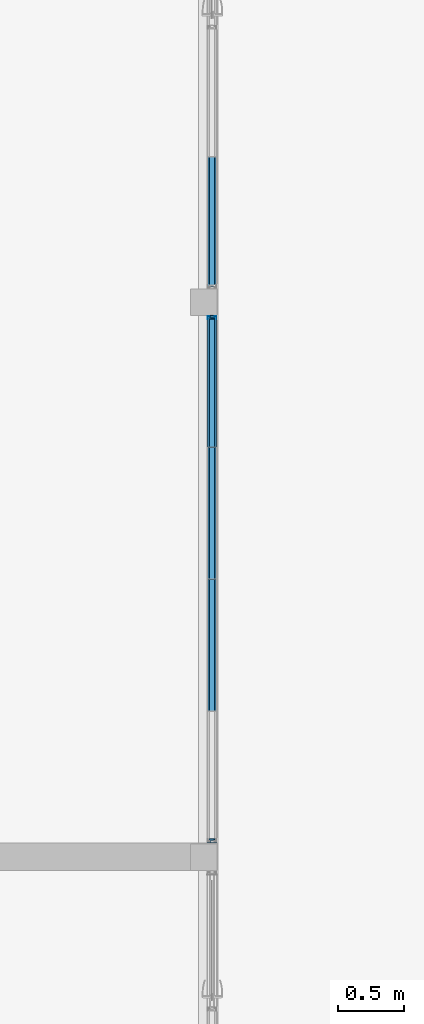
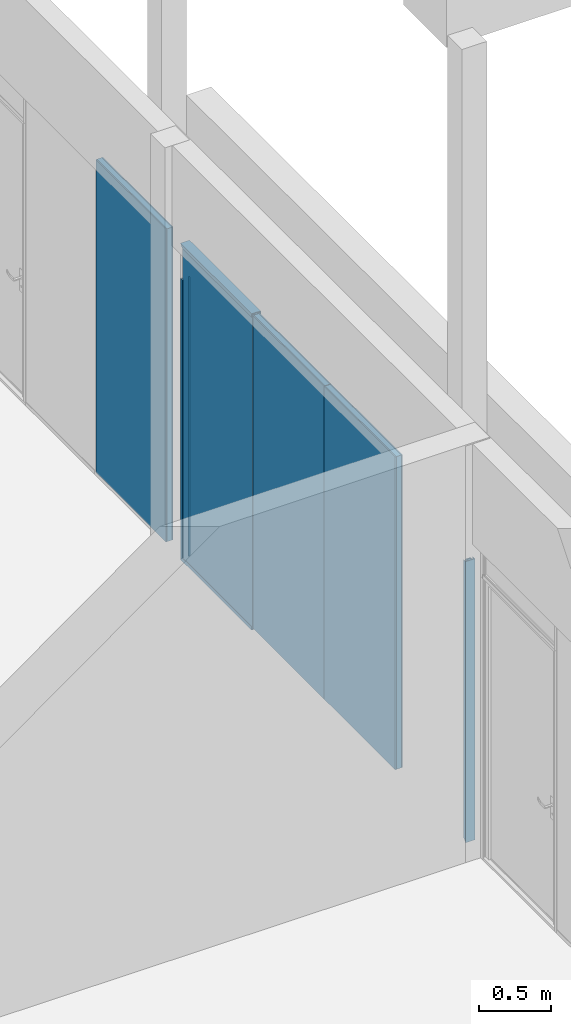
# One storey, part 33 of 65: 13 building element parts, 10 elements without a shape of their own.
"""IFC2X3 building model written with IfcOpenShell, lengths in millimetres."""

from ifc_helpers import new_model, entity, si_unit, converted_unit, derived_unit, money_unit, direction, frame, origin_with_axes, place, context, subcontext, project, spatial, faceted_brep, material, type_object, element, aggregate, save


model = new_model("IFC2X3")

# Units and contexts
model_context = context("Model", 3, precision=0.01, world=origin_with_axes(), true_north=direction((0.0, 1.0)))
body_context = subcontext(model_context, "Body", "Model", "MODEL_VIEW")
ifc_project = project(units=[si_unit("LENGTHUNIT", "METRE", prefix="MILLI"), si_unit("AREAUNIT", "SQUARE_METRE"), si_unit("VOLUMEUNIT", "CUBIC_METRE"), converted_unit("PLANEANGLEUNIT", "DEGREE", entity("IfcPlaneAngleMeasure", 0.0174532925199), si_unit("PLANEANGLEUNIT", "RADIAN"), dimensions=[0, 0, 0, 0, 0, 0, 0]), si_unit("SOLIDANGLEUNIT", "STERADIAN"), money_unit("EUR"), converted_unit("TIMEUNIT", "Year", entity("IfcTimeMeasure", 31556926.0), si_unit("TIMEUNIT", "SECOND"), dimensions=[0, 0, 1, 0, 0, 0, 0]), si_unit("MASSUNIT", "GRAM", prefix="KILO"), si_unit("THERMODYNAMICTEMPERATUREUNIT", "DEGREE_CELSIUS"), si_unit("LUMINOUSINTENSITYUNIT", "LUMEN"), si_unit("ENERGYUNIT", "JOULE", prefix="MEGA"), derived_unit("THERMALCONDUCTANCEUNIT", [(si_unit("POWERUNIT", "WATT"), 1), (si_unit("LENGTHUNIT", "METRE"), -1), (si_unit("THERMODYNAMICTEMPERATUREUNIT", "KELVIN"), -1)]), derived_unit("SPECIFICHEATCAPACITYUNIT", [(si_unit("ENERGYUNIT", "JOULE"), 1), (si_unit("MASSUNIT", "GRAM", prefix="KILO"), -1), (si_unit("THERMODYNAMICTEMPERATUREUNIT", "KELVIN"), -1)]), derived_unit("MASSDENSITYUNIT", [(si_unit("MASSUNIT", "GRAM", prefix="KILO"), 1), (si_unit("VOLUMEUNIT", "CUBIC_METRE"), -1)])], contexts=[model_context])

# Site, building, storey
site_placement = place(None, origin_with_axes())
site = spatial("IfcSite", under=ifc_project, at=site_placement, Name="Puškini 31, Narva", CompositionType="ELEMENT")
building_placement = place(site_placement, origin_with_axes())
building = spatial("IfcBuilding", under=site, at=building_placement, Name="Narva Riigigümnaasium", CompositionType="ELEMENT")
storey_placement = place(building_placement, frame((0.0, 0.0, -1320.0), z_axis=(0.0, 0.0, 1.0), x_axis=(1.0, 0.0, 0.0)))
storey = spatial("IfcBuildingStorey", under=building, at=storey_placement, Name="1.korrus -1.32", CompositionType="ELEMENT", Elevation=-1320.0)

# Curtain wall, plates, building element parts, members
curtain_wall_type = type_object("IfcCurtainWallType", Name="Curtain Wall Type", PredefinedType="NOTDEFINED")
curtain_wall_1_placement = place(storey_placement, frame((30362.9999988, 168706.249936, -1.99739158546e-06), z_axis=(0.0, 0.0, 1.0), x_axis=(1.0, 0.0, 0.0)))
curtain_wall_1 = element("IfcCurtainWall", 1, at=curtain_wall_1_placement, inside=storey, type_object=curtain_wall_type, Name="G-SKLF-05")
plate_type_1 = type_object("IfcPlateType", Name="Siseklaasfassaad - Klaas 994 x 285 x 10", PredefinedType="CURTAIN_PANEL")
plate_1_placement = place(curtain_wall_1_placement, frame((0.0, 0.0, 1700.00003085), z_axis=(0.0, 0.0, 1.0), x_axis=(0.0, -1.0, 0.0)))
plate_1 = element("IfcPlate", 2, at=plate_1_placement, type_object=plate_type_1, Name="G-SKLF-05-klaas", ObjectType="CURTAIN_PANEL")
ifc_material_1 = material(Name="VKR-05_Klaas")
building_element_part_1_placement = place(plate_1_placement, origin_with_axes())
building_element_part_1 = element("IfcBuildingElementPart", 3, at=building_element_part_1_placement, material=ifc_material_1, Name="VKR-05_Klaas", context=body_context, shape_type="Brep", body=[
    faceted_brep([(-497.250006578, 29.0, 985.000045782), (-497.250006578, 20.0, 985.000045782), (497.249986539, 20.0, 985.000045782), (497.249986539, 29.0, 985.000045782), (-497.250006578, 29.0, -1685.00001693), (-497.250006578, 20.0, -1685.00001693), (497.249986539, 20.0, -1685.00001693), (497.249986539, 29.0, -1685.00001693)], [[[0, 1, 2, 3]], [[4, 5, 1, 0]], [[1, 5, 6, 2]], [[3, 2, 6, 7]], [[0, 3, 7, 4]], [[7, 6, 5, 4]]]),
    faceted_brep([(-497.250006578, -20.0, 985.000045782), (-497.250006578, -29.0, 985.000045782), (497.249986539, -29.0, 985.000045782), (497.249986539, -20.0, 985.000045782), (-497.250006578, -20.0, -1685.00001693), (-497.250006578, -29.0, -1685.00001693), (497.249986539, -29.0, -1685.00001693), (497.249986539, -20.0, -1685.00001693)], [[[0, 1, 2, 3]], [[4, 5, 1, 0]], [[1, 5, 6, 2]], [[3, 2, 6, 7]], [[0, 3, 7, 4]], [[7, 6, 5, 4]]]),
])
ifc_material_2 = material(Name="VKR-06_Õhkvahe")
building_element_part_2_placement = place(plate_1_placement, origin_with_axes())
building_element_part_2 = element("IfcBuildingElementPart", 4, at=building_element_part_2_placement, material=ifc_material_2, Name="VKR-06_Õhkvahe", context=body_context, shape_type="Brep", body=[
    faceted_brep([(-497.250006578, 20.0, 985.000045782), (-497.250006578, -20.0, 985.000045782), (497.249986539, -20.0, 985.000045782), (497.249986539, 20.0, 985.000045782), (-497.250006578, 20.0, -1685.00001693), (-497.250006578, -20.0, -1685.00001693), (497.249986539, -20.0, -1685.00001693), (497.249986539, 20.0, -1685.00001693)], [[[0, 1, 2, 3]], [[4, 5, 1, 0]], [[1, 5, 6, 2]], [[3, 2, 6, 7]], [[0, 3, 7, 4]], [[7, 6, 5, 4]]]),
])
aggregate(plate_1, [building_element_part_1, building_element_part_2])
plate_2_placement = place(curtain_wall_1_placement, frame((0.0, 997.5, 1700.00003085), z_axis=(0.0, 0.0, 1.0), x_axis=(0.0, -1.0, 0.0)))
plate_2 = element("IfcPlate", 5, at=plate_2_placement, type_object=plate_type_1, Name="G-SKLF-05-klaas", ObjectType="CURTAIN_PANEL")
building_element_part_3_placement = place(plate_2_placement, origin_with_axes())
building_element_part_3 = element("IfcBuildingElementPart", 6, at=building_element_part_3_placement, material=ifc_material_1, Name="VKR-05_Klaas", context=body_context, shape_type="Brep", body=[
    faceted_brep([(-497.250006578, 29.0, 985.000045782), (-497.250006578, 20.0, 985.000045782), (497.249986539, 20.0, 985.000045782), (497.249986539, 29.0, 985.000045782), (-497.250006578, 29.0, -1685.00001693), (-497.250006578, 20.0, -1685.00001693), (497.249986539, 20.0, -1685.00001693), (497.249986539, 29.0, -1685.00001693)], [[[0, 1, 2, 3]], [[4, 5, 1, 0]], [[1, 5, 6, 2]], [[3, 2, 6, 7]], [[0, 3, 7, 4]], [[7, 6, 5, 4]]]),
    faceted_brep([(-497.250006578, -20.0, 985.000045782), (-497.250006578, -29.0, 985.000045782), (497.249986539, -29.0, 985.000045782), (497.249986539, -20.0, 985.000045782), (-497.250006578, -20.0, -1685.00001693), (-497.250006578, -29.0, -1685.00001693), (497.249986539, -29.0, -1685.00001693), (497.249986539, -20.0, -1685.00001693)], [[[0, 1, 2, 3]], [[4, 5, 1, 0]], [[1, 5, 6, 2]], [[3, 2, 6, 7]], [[0, 3, 7, 4]], [[7, 6, 5, 4]]]),
])
building_element_part_4_placement = place(plate_2_placement, origin_with_axes())
building_element_part_4 = element("IfcBuildingElementPart", 7, at=building_element_part_4_placement, material=ifc_material_2, Name="VKR-06_Õhkvahe", context=body_context, shape_type="Brep", body=[
    faceted_brep([(-497.250006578, 20.0, 985.000045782), (-497.250006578, -20.0, 985.000045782), (497.249986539, -20.0, 985.000045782), (497.249986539, 20.0, 985.000045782), (-497.250006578, 20.0, -1685.00001693), (-497.250006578, -20.0, -1685.00001693), (497.249986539, -20.0, -1685.00001693), (497.249986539, 20.0, -1685.00001693)], [[[0, 1, 2, 3]], [[4, 5, 1, 0]], [[1, 5, 6, 2]], [[3, 2, 6, 7]], [[0, 3, 7, 4]], [[7, 6, 5, 4]]]),
])
aggregate(plate_2, [building_element_part_3, building_element_part_4])
plate_type_2 = type_object("IfcPlateType", Name="Siseklaasfassaad - Klaas 981 x 285 x 10", PredefinedType="CURTAIN_PANEL")
plate_3_placement = place(curtain_wall_1_placement, frame((0.0, 1995.00004499, 1700.00003085), z_axis=(0.0, 0.0, 1.0), x_axis=(0.0, -1.0, 0.0)))
plate_3 = element("IfcPlate", 8, at=plate_3_placement, type_object=plate_type_2, Name="G-SKLF-05-klaas", ObjectType="CURTAIN_PANEL")
building_element_part_5_placement = place(plate_3_placement, origin_with_axes())
building_element_part_5 = element("IfcBuildingElementPart", 9, at=building_element_part_5_placement, material=ifc_material_1, Name="VKR-05_Klaas", context=body_context, shape_type="Brep", body=[
    faceted_brep([(-483.750041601, 29.0, 985.000045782), (-483.750041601, 20.0, 985.000045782), (497.250031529, 20.0, 985.000045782), (497.250031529, 29.0, 985.000045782), (-483.750041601, 29.0, -1685.00001693), (-483.750041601, 20.0, -1685.00001693), (497.250031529, 20.0, -1685.00001693), (497.250031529, 29.0, -1685.00001693)], [[[0, 1, 2, 3]], [[4, 5, 1, 0]], [[1, 5, 6, 2]], [[3, 2, 6, 7]], [[0, 3, 7, 4]], [[7, 6, 5, 4]]]),
    faceted_brep([(-483.750041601, -20.0, 985.000045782), (-483.750041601, -29.0, 985.000045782), (497.250031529, -29.0, 985.000045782), (497.250031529, -20.0, 985.000045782), (-483.750041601, -20.0, -1685.00001693), (-483.750041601, -29.0, -1685.00001693), (497.250031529, -29.0, -1685.00001693), (497.250031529, -20.0, -1685.00001693)], [[[0, 1, 2, 3]], [[4, 5, 1, 0]], [[1, 5, 6, 2]], [[3, 2, 6, 7]], [[0, 3, 7, 4]], [[7, 6, 5, 4]]]),
])
building_element_part_6_placement = place(plate_3_placement, origin_with_axes())
building_element_part_6 = element("IfcBuildingElementPart", 10, at=building_element_part_6_placement, material=ifc_material_2, Name="VKR-06_Õhkvahe", context=body_context, shape_type="Brep", body=[
    faceted_brep([(-483.750041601, 20.0, 985.000045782), (-483.750041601, -20.0, 985.000045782), (497.250031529, -20.0, 985.000045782), (497.250031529, 20.0, 985.000045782), (-483.750041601, 20.0, -1685.00001693), (-483.750041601, -20.0, -1685.00001693), (497.250031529, -20.0, -1685.00001693), (497.250031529, 20.0, -1685.00001693)], [[[0, 1, 2, 3]], [[4, 5, 1, 0]], [[1, 5, 6, 2]], [[3, 2, 6, 7]], [[0, 3, 7, 4]], [[7, 6, 5, 4]]]),
])
aggregate(plate_3, [building_element_part_5, building_element_part_6])
member_type = type_object("IfcMemberType", Name="Boundary Frame 30 x 37", PredefinedType="MULLION")
member_1_placement = place(curtain_wall_1_placement, frame((0.0, 2493.75008998, 0.0), z_axis=(0.0, 0.0, 1.0), x_axis=(0.0, -1.0, 0.0)))
member_1 = element("IfcMember", 11, at=member_1_placement, type_object=member_type, Name="G-SKLF-09-raam", ObjectType="MULLION")
ifc_material_3 = material(Name="Klaasvill")
building_element_part_7_placement = place(member_1_placement, origin_with_axes())
building_element_part_7 = element("IfcBuildingElementPart", 12, at=building_element_part_7_placement, material=ifc_material_3, Name="Klaasvill", context=body_context, shape_type="Brep", body=[
    faceted_brep([(13.8499999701, -20.000000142, 13.8499999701), (7.49999990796, -20.000000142, 7.49999990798), (7.49999990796, -20.000000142, 2400.000002), (13.8499999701, -20.000000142, 2400.000002), (13.8499999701, -34.0161444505, 13.8499999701), (7.49999990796, -34.0161444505, 7.49999990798), (7.49999990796, -34.0161444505, 2400.000002), (13.8499999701, -34.0161444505, 2400.000002)], [[[0, 1, 2, 3]], [[1, 0, 4, 5]], [[1, 5, 6, 2]], [[2, 6, 7, 3]], [[4, 0, 3, 7]], [[5, 4, 7, 6]]]),
    faceted_brep([(25.004489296, -32.0307503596, 25.004489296), (24.987414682, -34.0161444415, 24.987414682), (24.987414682, -34.0161444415, 2400.000002), (25.004489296, -32.0307503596, 2400.000002), (25.742237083, -31.2930025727, 25.742237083), (26.7500193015, -31.0229681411, 26.7500193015), (27.75780152, -31.2930025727, 27.75780152), (28.4955493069, -32.0307503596, 28.4955493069), (28.7655837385, -33.0385325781, 28.7655837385), (28.5126239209, -34.0161444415, 28.5126239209), (28.5126239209, -34.0161444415, 2400.000002), (28.7655837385, -33.0385325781, 2400.000002), (28.4955493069, -32.0307503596, 2400.000002), (27.75780152, -31.2930025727, 2400.000002), (26.7500193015, -31.0229681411, 2400.000002), (25.742237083, -31.2930025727, 2400.000002)], [[[0, 1, 2, 3]], [[1, 0, 4, 5, 6, 7, 8, 9]], [[1, 9, 10, 2]], [[2, 10, 11, 12, 13, 14, 15, 3]], [[4, 0, 3, 15]], [[5, 4, 15, 14]], [[6, 5, 14, 13]], [[7, 6, 13, 12]], [[8, 7, 12, 11]], [[9, 8, 11, 10]]]),
    faceted_brep([(7.49999990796, 34.0161445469, 7.49999990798), (7.49999990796, 19.9999997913, 7.49999990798), (7.49999990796, 19.9999997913, 2400.000002), (7.49999990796, 34.0161445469, 2400.000002), (13.8499999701, 34.0161445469, 13.8499999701), (13.8499999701, 19.9999997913, 13.8499999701), (13.8499999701, 19.9999997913, 2400.000002), (13.8499999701, 34.0161445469, 2400.000002)], [[[0, 1, 2, 3]], [[1, 0, 4, 5]], [[1, 5, 6, 2]], [[2, 6, 7, 3]], [[4, 0, 3, 7]], [[5, 4, 7, 6]]]),
    faceted_brep([(24.987414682, 34.0161444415, 24.987414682), (25.004489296, 32.0307503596, 25.004489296), (25.004489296, 32.0307503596, 2400.000002), (24.987414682, 34.0161444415, 2400.000002), (28.5126239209, 34.0161444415, 28.5126239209), (28.7655837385, 33.0385325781, 28.7655837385), (28.4955493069, 32.0307503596, 28.4955493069), (27.75780152, 31.2930025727, 27.75780152), (26.7500193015, 31.0229681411, 26.7500193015), (25.742237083, 31.2930025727, 25.742237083), (25.742237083, 31.2930025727, 2400.000002), (26.7500193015, 31.0229681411, 2400.000002), (27.75780152, 31.2930025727, 2400.000002), (28.4955493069, 32.0307503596, 2400.000002), (28.7655837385, 33.0385325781, 2400.000002), (28.5126239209, 34.0161444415, 2400.000002)], [[[0, 1, 2, 3]], [[1, 0, 4, 5, 6, 7, 8, 9]], [[1, 9, 10, 2]], [[2, 10, 11, 12, 13, 14, 15, 3]], [[4, 0, 3, 15]], [[5, 4, 15, 14]], [[6, 5, 14, 13]], [[7, 6, 13, 12]], [[8, 7, 12, 11]], [[9, 8, 11, 10]]]),
])
ifc_material_4 = material(Name="Teras RAL7012")
building_element_part_8_placement = place(member_1_placement, origin_with_axes())
building_element_part_8 = element("IfcBuildingElementPart", 13, at=building_element_part_8_placement, material=ifc_material_4, Name="Teras RAL7012", context=body_context, shape_type="Brep", body=[
    faceted_brep([(29.5999996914, 17.0000000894, 29.5999996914), (0.0, 17.0000000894, 0.0), (0.0, 17.0000000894, 2400.000002), (29.5999996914, 17.0000000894, 2400.000002), (29.5999996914, -17.0000000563, 29.5999996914), (0.0, -17.0000000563, 0.0), (1.99999991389, -15.0000001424, 1.9999999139), (18.7999996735, -15.0000001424, 18.7999996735), (18.7999996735, 15.0000001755, 18.7999996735), (1.99999991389, 15.0000001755, 1.9999999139), (0.0, -17.0000000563, 2400.000002), (29.5999996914, -17.0000000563, 2400.000002), (1.99999991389, -15.0000001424, 2400.000002), (1.99999991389, 15.0000001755, 2400.000002), (18.7999996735, 15.0000001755, 2400.000002), (18.7999996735, -15.0000001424, 2400.000002)], [[[0, 1, 2, 3]], [[1, 0, 4, 5], [6, 7, 8, 9]], [[1, 5, 10, 2]], [[2, 10, 11, 3], [12, 13, 14, 15]], [[4, 0, 3, 11]], [[5, 4, 11, 10]], [[7, 6, 12, 15]], [[8, 7, 15, 14]], [[9, 8, 14, 13]], [[6, 9, 13, 12]]]),
    faceted_brep([(29.5999996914, -17.0000000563, 29.5999996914), (0.0, -17.0, 0.0), (0.0, -17.0, 2400.000002), (29.5999996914, -17.0000000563, 2400.000002), (30.0000193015, -17.0, 30.0000193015), (30.0000193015, -20.0, 30.0000193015), (13.8499999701, -20.000000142, 13.8499999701), (7.49999999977, -20.0, 7.49999999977), (7.49999999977, -34.0161444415, 7.49999999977), (13.8499999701, -34.0161444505, 13.8499999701), (24.987414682, -34.0161444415, 24.987414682), (28.5126239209, -34.0161444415, 28.5126239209), (30.0000193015, -34.0161444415, 30.0000193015), (30.0000193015, -37.0, 30.0000193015), (0.0, -37.0, 0.0), (0.0, -37.0, 2400.000002), (30.0000193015, -37.0, 2400.000002), (30.0000193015, -34.0161444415, 2400.000002), (28.5126239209, -34.0161444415, 2400.000002), (24.987414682, -34.0161444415, 2400.000002), (13.8499999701, -34.0161444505, 2400.000002), (7.49999999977, -34.0161444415, 2400.000002), (7.49999999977, -20.0, 2400.000002), (13.8499999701, -20.000000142, 2400.000002), (30.0000193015, -20.0, 2400.000002), (30.0000193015, -17.0, 2400.000002)], [[[0, 1, 2, 3]], [[1, 0, 4, 5, 6, 7, 8, 9, 10, 11, 12, 13, 14]], [[1, 14, 15, 2]], [[2, 15, 16, 17, 18, 19, 20, 21, 22, 23, 24, 25, 3]], [[4, 0, 3, 25]], [[5, 4, 25, 24]], [[6, 5, 24, 23]], [[7, 6, 23, 22]], [[8, 7, 22, 21]], [[9, 8, 21, 20]], [[10, 9, 20, 19]], [[11, 10, 19, 18]], [[12, 11, 18, 17]], [[13, 12, 17, 16]], [[14, 13, 16, 15]]]),
    faceted_brep([(0.0, 37.0, 0.0), (0.0, 17.0, 0.0), (0.0, 17.0, 2400.000002), (0.0, 37.0, 2400.000002), (30.0000193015, 37.0, 30.0000193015), (30.0000193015, 34.0161444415, 30.0000193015), (28.5126239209, 34.0161444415, 28.5126239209), (24.987414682, 34.0161444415, 24.987414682), (13.8499999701, 34.0161445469, 13.8499999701), (7.49999999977, 34.0161444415, 7.49999999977), (7.49999999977, 20.0, 7.49999999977), (13.8499999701, 19.9999997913, 13.8499999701), (30.0000193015, 20.0, 30.0000193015), (30.0000193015, 17.0, 30.0000193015), (29.5999996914, 17.0000000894, 29.5999996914), (29.5999996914, 17.0000000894, 2400.000002), (30.0000193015, 17.0, 2400.000002), (30.0000193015, 20.0, 2400.000002), (13.8499999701, 19.9999997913, 2400.000002), (7.49999999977, 20.0, 2400.000002), (7.49999999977, 34.0161444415, 2400.000002), (13.8499999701, 34.0161445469, 2400.000002), (24.987414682, 34.0161444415, 2400.000002), (28.5126239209, 34.0161444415, 2400.000002), (30.0000193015, 34.0161444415, 2400.000002), (30.0000193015, 37.0, 2400.000002)], [[[0, 1, 2, 3]], [[1, 0, 4, 5, 6, 7, 8, 9, 10, 11, 12, 13, 14]], [[1, 14, 15, 2]], [[2, 15, 16, 17, 18, 19, 20, 21, 22, 23, 24, 25, 3]], [[4, 0, 3, 25]], [[5, 4, 25, 24]], [[6, 5, 24, 23]], [[7, 6, 23, 22]], [[8, 7, 22, 21]], [[9, 8, 21, 20]], [[10, 9, 20, 19]], [[11, 10, 19, 18]], [[12, 11, 18, 17]], [[13, 12, 17, 16]], [[14, 13, 16, 15]]]),
])
aggregate(member_1, [building_element_part_7, building_element_part_8])
member_2_placement = place(curtain_wall_1_placement, frame((0.0, 1496.25, 0.0), z_axis=(0.0, 1.0, 0.0), x_axis=(0.0, 0.0, 1.0)))
member_2 = element("IfcMember", 14, at=member_2_placement, type_object=member_type, Name="G-SKLF-08-raam", ObjectType="MULLION")
building_element_part_9_placement = place(member_2_placement, origin_with_axes())
building_element_part_9 = element("IfcBuildingElementPart", 15, at=building_element_part_9_placement, material=ifc_material_4, Name="Teras RAL7012", context=body_context, shape_type="Brep", body=[
    faceted_brep([(29.5999996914, 17.0000000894, 1.47998535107), (0.0, 17.0000000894, 0.0), (0.0, 17.0000000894, 997.500089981), (29.5999996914, 17.0000000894, 967.900090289), (29.5999996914, -17.0000000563, 1.47998535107), (0.0, -17.0000000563, 0.0), (1.9999999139, -15.0000001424, 0.0999990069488), (18.7999996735, -15.0000001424, 0.939990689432), (18.7999996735, 15.0000001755, 0.939990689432), (1.9999999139, 15.0000001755, 0.0999990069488), (0.0, -17.0000000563, 997.500089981), (29.5999996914, -17.0000000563, 967.900090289), (1.9999999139, -15.0000001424, 995.500090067), (1.9999999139, 15.0000001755, 995.500090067), (18.7999996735, 15.0000001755, 978.700090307), (18.7999996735, -15.0000001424, 978.700090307)], [[[0, 1, 2, 3]], [[1, 0, 4, 5], [6, 7, 8, 9]], [[1, 5, 10, 2]], [[2, 10, 11, 3], [12, 13, 14, 15]], [[4, 0, 3, 11]], [[5, 4, 11, 10]], [[7, 6, 12, 15]], [[8, 7, 15, 14]], [[9, 8, 14, 13]], [[6, 9, 13, 12]]]),
    faceted_brep([(29.5999996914, -17.0000000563, 1.47998535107), (0.0, -17.0, 0.0), (0.0, -17.0, 997.500089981), (29.5999996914, -17.0000000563, 967.900090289), (30.0000193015, -17.0, 1.49998613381), (30.0000193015, -20.0, 1.49998613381), (13.8499999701, -20.000000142, 0.692493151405), (7.49999999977, -20.0, 0.37499629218), (7.49999999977, -34.0161444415, 0.37499629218), (13.8499999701, -34.0161444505, 0.692493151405), (24.987414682, -34.0161444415, 1.24935838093), (28.5126239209, -34.0161444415, 1.42561710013), (30.0000193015, -34.0161444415, 1.49998613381), (30.0000193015, -37.0, 1.49998613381), (0.0, -37.0, 0.0), (0.0, -37.0, 997.500089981), (30.0000193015, -37.0, 967.500070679), (30.0000193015, -34.0161444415, 967.500070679), (28.5126239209, -34.0161444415, 968.98746606), (24.987414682, -34.0161444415, 972.512675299), (13.8499999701, -34.0161444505, 983.65009001), (7.49999999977, -34.0161444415, 990.000089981), (7.49999999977, -20.0, 990.000089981), (13.8499999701, -20.000000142, 983.65009001), (30.0000193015, -20.0, 967.500070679), (30.0000193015, -17.0, 967.500070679)], [[[0, 1, 2, 3]], [[1, 0, 4, 5, 6, 7, 8, 9, 10, 11, 12, 13, 14]], [[1, 14, 15, 2]], [[2, 15, 16, 17, 18, 19, 20, 21, 22, 23, 24, 25, 3]], [[4, 0, 3, 25]], [[5, 4, 25, 24]], [[6, 5, 24, 23]], [[7, 6, 23, 22]], [[8, 7, 22, 21]], [[9, 8, 21, 20]], [[10, 9, 20, 19]], [[11, 10, 19, 18]], [[12, 11, 18, 17]], [[13, 12, 17, 16]], [[14, 13, 16, 15]]]),
    faceted_brep([(0.0, 37.0, 0.0), (0.0, 17.0, 0.0), (0.0, 17.0, 997.500089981), (0.0, 37.0, 997.500089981), (30.0000193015, 37.0, 1.49998613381), (30.0000193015, 34.0161444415, 1.49998613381), (28.5126239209, 34.0161444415, 1.42561710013), (24.987414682, 34.0161444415, 1.24935838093), (13.8499999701, 34.0161445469, 0.692493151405), (7.49999999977, 34.0161444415, 0.37499629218), (7.49999999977, 20.0, 0.37499629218), (13.8499999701, 19.9999997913, 0.692493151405), (30.0000193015, 20.0, 1.49998613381), (30.0000193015, 17.0, 1.49998613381), (29.5999996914, 17.0000000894, 1.47998535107), (29.5999996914, 17.0000000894, 967.900090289), (30.0000193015, 17.0, 967.500070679), (30.0000193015, 20.0, 967.500070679), (13.8499999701, 19.9999997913, 983.65009001), (7.49999999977, 20.0, 990.000089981), (7.49999999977, 34.0161444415, 990.000089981), (13.8499999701, 34.0161445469, 983.65009001), (24.987414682, 34.0161444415, 972.512675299), (28.5126239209, 34.0161444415, 968.98746606), (30.0000193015, 34.0161444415, 967.500070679), (30.0000193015, 37.0, 967.500070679)], [[[0, 1, 2, 3]], [[1, 0, 4, 5, 6, 7, 8, 9, 10, 11, 12, 13, 14]], [[1, 14, 15, 2]], [[2, 15, 16, 17, 18, 19, 20, 21, 22, 23, 24, 25, 3]], [[4, 0, 3, 25]], [[5, 4, 25, 24]], [[6, 5, 24, 23]], [[7, 6, 23, 22]], [[8, 7, 22, 21]], [[9, 8, 21, 20]], [[10, 9, 20, 19]], [[11, 10, 19, 18]], [[12, 11, 18, 17]], [[13, 12, 17, 16]], [[14, 13, 16, 15]]]),
])
aggregate(member_2, [building_element_part_9])
member_3_placement = place(curtain_wall_1_placement, frame((0.0, 1496.25, 2700.00009054), z_axis=(0.0, 1.0, 0.0), x_axis=(0.0, 0.0, 1.0)))
member_3 = element("IfcMember", 16, at=member_3_placement, type_object=member_type, Name="G-SKLF-11-raam", ObjectType="MULLION")
building_element_part_10_placement = place(member_3_placement, origin_with_axes())
building_element_part_10 = element("IfcBuildingElementPart", 17, at=building_element_part_10_placement, material=ifc_material_4, Name="Teras RAL7012", context=body_context, shape_type="Brep", body=[
    faceted_brep([(-29.5999996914, 17.0000000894, 1.47998535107), (-29.5999996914, 17.0000000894, 967.900090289), (0.0, 17.0000000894, 997.500089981), (0.0, 17.0000000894, 0.0), (-29.5999996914, -17.0000000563, 1.47998535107), (-29.5999996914, -17.0000000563, 967.900090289), (0.0, -17.0000000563, 997.500089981), (-1.9999999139, -15.0000001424, 995.500090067), (-18.7999996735, -15.0000001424, 978.700090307), (-18.7999996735, 15.0000001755, 978.700090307), (-1.9999999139, 15.0000001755, 995.500090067), (0.0, -17.0000000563, 0.0), (-1.9999999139, -15.0000001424, 0.0999990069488), (-1.9999999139, 15.0000001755, 0.0999990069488), (-18.7999996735, 15.0000001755, 0.939990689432), (-18.7999996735, -15.0000001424, 0.939990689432)], [[[0, 1, 2, 3]], [[4, 5, 1, 0]], [[2, 1, 5, 6], [7, 8, 9, 10]], [[3, 2, 6, 11]], [[3, 11, 4, 0], [12, 13, 14, 15]], [[11, 6, 5, 4]], [[15, 8, 7, 12]], [[14, 9, 8, 15]], [[13, 10, 9, 14]], [[12, 7, 10, 13]]]),
    faceted_brep([(-29.5999996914, -17.0000000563, 1.47998535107), (-29.5999996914, -17.0000000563, 967.900090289), (0.0, -17.0, 997.500089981), (0.0, -17.0, 0.0), (-30.0000193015, -17.0, 1.49998613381), (-30.0000193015, -17.0, 967.500070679), (-30.0000193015, -20.0, 967.500070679), (-13.8499999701, -20.000000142, 983.65009001), (-7.49999999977, -20.0, 990.000089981), (-7.49999999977, -34.0161444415, 990.000089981), (-13.8499999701, -34.0161444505, 983.65009001), (-24.987414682, -34.0161444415, 972.512675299), (-28.5126239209, -34.0161444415, 968.98746606), (-30.0000193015, -34.0161444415, 967.500070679), (-30.0000193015, -37.0, 967.500070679), (0.0, -37.0, 997.500089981), (0.0, -37.0, 0.0), (-30.0000193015, -37.0, 1.49998613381), (-30.0000193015, -34.0161444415, 1.49998613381), (-28.5126239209, -34.0161444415, 1.42561710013), (-24.987414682, -34.0161444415, 1.24935838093), (-13.8499999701, -34.0161444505, 0.692493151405), (-7.49999999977, -34.0161444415, 0.37499629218), (-7.49999999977, -20.0, 0.37499629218), (-13.8499999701, -20.000000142, 0.692493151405), (-30.0000193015, -20.0, 1.49998613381)], [[[0, 1, 2, 3]], [[4, 5, 1, 0]], [[2, 1, 5, 6, 7, 8, 9, 10, 11, 12, 13, 14, 15]], [[3, 2, 15, 16]], [[3, 16, 17, 18, 19, 20, 21, 22, 23, 24, 25, 4, 0]], [[25, 6, 5, 4]], [[24, 7, 6, 25]], [[23, 8, 7, 24]], [[22, 9, 8, 23]], [[21, 10, 9, 22]], [[20, 11, 10, 21]], [[19, 12, 11, 20]], [[18, 13, 12, 19]], [[17, 14, 13, 18]], [[16, 15, 14, 17]]]),
    faceted_brep([(0.0, 37.0, 0.0), (0.0, 37.0, 997.500089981), (0.0, 17.0, 997.500089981), (0.0, 17.0, 0.0), (-30.0000193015, 37.0, 1.49998613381), (-30.0000193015, 37.0, 967.500070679), (-30.0000193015, 34.0161444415, 967.500070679), (-28.5126239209, 34.0161444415, 968.98746606), (-24.987414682, 34.0161444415, 972.512675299), (-13.8499999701, 34.0161445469, 983.65009001), (-7.49999999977, 34.0161444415, 990.000089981), (-7.49999999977, 20.0, 990.000089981), (-13.8499999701, 19.9999997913, 983.65009001), (-30.0000193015, 20.0, 967.500070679), (-30.0000193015, 17.0, 967.500070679), (-29.5999996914, 17.0000000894, 967.900090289), (-29.5999996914, 17.0000000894, 1.47998535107), (-30.0000193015, 17.0, 1.49998613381), (-30.0000193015, 20.0, 1.49998613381), (-13.8499999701, 19.9999997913, 0.692493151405), (-7.49999999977, 20.0, 0.37499629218), (-7.49999999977, 34.0161444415, 0.37499629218), (-13.8499999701, 34.0161445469, 0.692493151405), (-24.987414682, 34.0161444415, 1.24935838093), (-28.5126239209, 34.0161444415, 1.42561710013), (-30.0000193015, 34.0161444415, 1.49998613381)], [[[0, 1, 2, 3]], [[4, 5, 1, 0]], [[2, 1, 5, 6, 7, 8, 9, 10, 11, 12, 13, 14, 15]], [[3, 2, 15, 16]], [[3, 16, 17, 18, 19, 20, 21, 22, 23, 24, 25, 4, 0]], [[25, 6, 5, 4]], [[24, 7, 6, 25]], [[23, 8, 7, 24]], [[22, 9, 8, 23]], [[21, 10, 9, 22]], [[20, 11, 10, 21]], [[19, 12, 11, 20]], [[18, 13, 12, 19]], [[17, 14, 13, 18]], [[16, 15, 14, 17]]]),
])
aggregate(member_3, [building_element_part_10])
member_4_placement = place(curtain_wall_1_placement, frame((0.0, -1496.25, 0.0), z_axis=(0.0, 0.0, 1.0), x_axis=(0.0, -1.0, 0.0)))
member_4 = element("IfcMember", 18, at=member_4_placement, type_object=member_type, Name="G-SKLF-16-raam", ObjectType="MULLION")
aggregate(curtain_wall_1, [member_1, member_2, member_3, member_4, plate_1, plate_2, plate_3])
building_element_part_11_placement = place(member_4_placement, origin_with_axes())
building_element_part_11 = element("IfcBuildingElementPart", 19, at=building_element_part_11_placement, material=ifc_material_4, Name="Teras RAL7012", context=body_context, shape_type="Brep", body=[
    faceted_brep([(-29.5999996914, 17.0000000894, 29.5999996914), (-29.5999996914, 17.0000000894, 2400.000002), (0.0, 17.0000000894, 2400.000002), (0.0, 17.0000000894, 0.0), (-29.5999996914, -17.0000000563, 29.5999996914), (-29.5999996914, -17.0000000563, 2400.000002), (0.0, -17.0000000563, 2400.000002), (-1.99999991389, -15.0000001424, 2400.000002), (-18.7999996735, -15.0000001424, 2400.000002), (-18.7999996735, 15.0000001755, 2400.000002), (-1.99999991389, 15.0000001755, 2400.000002), (0.0, -17.0000000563, 0.0), (-1.99999991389, -15.0000001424, 1.9999999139), (-1.99999991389, 15.0000001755, 1.9999999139), (-18.7999996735, 15.0000001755, 18.7999996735), (-18.7999996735, -15.0000001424, 18.7999996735)], [[[0, 1, 2, 3]], [[4, 5, 1, 0]], [[2, 1, 5, 6], [7, 8, 9, 10]], [[3, 2, 6, 11]], [[3, 11, 4, 0], [12, 13, 14, 15]], [[11, 6, 5, 4]], [[15, 8, 7, 12]], [[14, 9, 8, 15]], [[13, 10, 9, 14]], [[12, 7, 10, 13]]]),
    faceted_brep([(-29.5999996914, -17.0000000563, 29.5999996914), (-29.5999996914, -17.0000000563, 2400.000002), (0.0, -17.0, 2400.000002), (0.0, -17.0, 0.0), (-30.0000193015, -17.0, 30.0000193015), (-30.0000193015, -17.0, 2400.000002), (-30.0000193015, -20.0, 2400.000002), (-13.8499999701, -20.000000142, 2400.000002), (-7.49999999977, -20.0, 2400.000002), (-7.49999999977, -34.0161444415, 2400.000002), (-13.8499999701, -34.0161444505, 2400.000002), (-24.987414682, -34.0161444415, 2400.000002), (-28.5126239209, -34.0161444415, 2400.000002), (-30.0000193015, -34.0161444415, 2400.000002), (-30.0000193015, -37.0, 2400.000002), (0.0, -37.0, 2400.000002), (0.0, -37.0, 0.0), (-30.0000193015, -37.0, 30.0000193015), (-30.0000193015, -34.0161444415, 30.0000193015), (-28.5126239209, -34.0161444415, 28.5126239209), (-24.987414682, -34.0161444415, 24.987414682), (-13.8499999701, -34.0161444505, 13.8499999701), (-7.49999999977, -34.0161444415, 7.49999999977), (-7.49999999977, -20.0, 7.49999999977), (-13.8499999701, -20.000000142, 13.8499999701), (-30.0000193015, -20.0, 30.0000193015)], [[[0, 1, 2, 3]], [[4, 5, 1, 0]], [[2, 1, 5, 6, 7, 8, 9, 10, 11, 12, 13, 14, 15]], [[3, 2, 15, 16]], [[3, 16, 17, 18, 19, 20, 21, 22, 23, 24, 25, 4, 0]], [[25, 6, 5, 4]], [[24, 7, 6, 25]], [[23, 8, 7, 24]], [[22, 9, 8, 23]], [[21, 10, 9, 22]], [[20, 11, 10, 21]], [[19, 12, 11, 20]], [[18, 13, 12, 19]], [[17, 14, 13, 18]], [[16, 15, 14, 17]]]),
    faceted_brep([(0.0, 37.0, 0.0), (0.0, 37.0, 2400.000002), (0.0, 17.0, 2400.000002), (0.0, 17.0, 0.0), (-30.0000193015, 37.0, 30.0000193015), (-30.0000193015, 37.0, 2400.000002), (-30.0000193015, 34.0161444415, 2400.000002), (-28.5126239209, 34.0161444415, 2400.000002), (-24.987414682, 34.0161444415, 2400.000002), (-13.8499999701, 34.0161445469, 2400.000002), (-7.49999999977, 34.0161444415, 2400.000002), (-7.49999999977, 20.0, 2400.000002), (-13.8499999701, 19.9999997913, 2400.000002), (-30.0000193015, 20.0, 2400.000002), (-30.0000193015, 17.0, 2400.000002), (-29.5999996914, 17.0000000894, 2400.000002), (-29.5999996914, 17.0000000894, 29.5999996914), (-30.0000193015, 17.0, 30.0000193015), (-30.0000193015, 20.0, 30.0000193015), (-13.8499999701, 19.9999997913, 13.8499999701), (-7.49999999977, 20.0, 7.49999999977), (-7.49999999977, 34.0161444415, 7.49999999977), (-13.8499999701, 34.0161445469, 13.8499999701), (-24.987414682, 34.0161444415, 24.987414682), (-28.5126239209, 34.0161444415, 28.5126239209), (-30.0000193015, 34.0161444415, 30.0000193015)], [[[0, 1, 2, 3]], [[4, 5, 1, 0]], [[2, 1, 5, 6, 7, 8, 9, 10, 11, 12, 13, 14, 15]], [[3, 2, 15, 16]], [[3, 16, 17, 18, 19, 20, 21, 22, 23, 24, 25, 4, 0]], [[25, 6, 5, 4]], [[24, 7, 6, 25]], [[23, 8, 7, 24]], [[22, 9, 8, 23]], [[21, 10, 9, 22]], [[20, 11, 10, 21]], [[19, 12, 11, 20]], [[18, 13, 12, 19]], [[17, 14, 13, 18]], [[16, 15, 14, 17]]]),
])
aggregate(member_4, [building_element_part_11])

# Curtain wall, plate, building element parts
curtain_wall_2_placement = place(storey_placement, frame((30362.9999948, 171898.750025, 0.0), z_axis=(0.0, 0.0, 1.0), x_axis=(1.0, 0.0, 0.0)))
curtain_wall_2 = element("IfcCurtainWall", 20, at=curtain_wall_2_placement, inside=storey, type_object=curtain_wall_type, Name="G-SKLF-06")
plate_4_placement = place(curtain_wall_2_placement, frame((0.0, 0.0, 1700.0), z_axis=(0.0, 0.0, 1.0), x_axis=(0.0, -1.0, 0.0)))
plate_4 = element("IfcPlate", 21, at=plate_4_placement, type_object=plate_type_2, Name="G-SKLF-06-klaas", ObjectType="CURTAIN_PANEL")
aggregate(curtain_wall_2, [plate_4])
building_element_part_12_placement = place(plate_4_placement, origin_with_axes())
building_element_part_12 = element("IfcBuildingElementPart", 22, at=building_element_part_12_placement, material=ifc_material_1, Name="VKR-05_Klaas", context=body_context, shape_type="Brep", body=[
    faceted_brep([(-497.250013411, -29.0, 984.999986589), (483.749986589, -29.0, 984.999986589), (483.749986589, -20.0, 984.999986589), (-497.250013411, -20.0, 984.999986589), (-497.250013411, -29.0, -1684.99998659), (483.749986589, -29.0, -1684.99998659), (483.749986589, -20.0, -1684.99998659), (-497.250013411, -20.0, -1684.99998659)], [[[0, 1, 2, 3]], [[0, 4, 5, 1]], [[1, 5, 6, 2]], [[3, 2, 6, 7]], [[4, 0, 3, 7]], [[5, 4, 7, 6]]]),
    faceted_brep([(-497.250013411, 20.0, 984.999986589), (483.749986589, 20.0, 984.999986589), (483.749986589, 29.0, 984.999986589), (-497.250013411, 29.0, 984.999986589), (-497.250013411, 20.0, -1684.99998659), (483.749986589, 20.0, -1684.99998659), (483.749986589, 29.0, -1684.99998659), (-497.250013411, 29.0, -1684.99998659)], [[[0, 1, 2, 3]], [[0, 4, 5, 1]], [[1, 5, 6, 2]], [[3, 2, 6, 7]], [[4, 0, 3, 7]], [[5, 4, 7, 6]]]),
])
building_element_part_13_placement = place(plate_4_placement, origin_with_axes())
building_element_part_13 = element("IfcBuildingElementPart", 23, at=building_element_part_13_placement, material=ifc_material_2, Name="VKR-06_Õhkvahe", context=body_context, shape_type="Brep", body=[
    faceted_brep([(-497.250013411, -20.0, 984.999986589), (483.749986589, -20.0, 984.999986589), (483.749986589, 20.0, 984.999986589), (-497.250013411, 20.0, 984.999986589), (-497.250013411, -20.0, -1684.99998659), (483.749986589, -20.0, -1684.99998659), (483.749986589, 20.0, -1684.99998659), (-497.250013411, 20.0, -1684.99998659)], [[[0, 1, 2, 3]], [[0, 4, 5, 1]], [[1, 5, 6, 2]], [[3, 2, 6, 7]], [[4, 0, 3, 7]], [[5, 4, 7, 6]]]),
])
aggregate(plate_4, [building_element_part_12, building_element_part_13])

save(model, "model.ifc")
